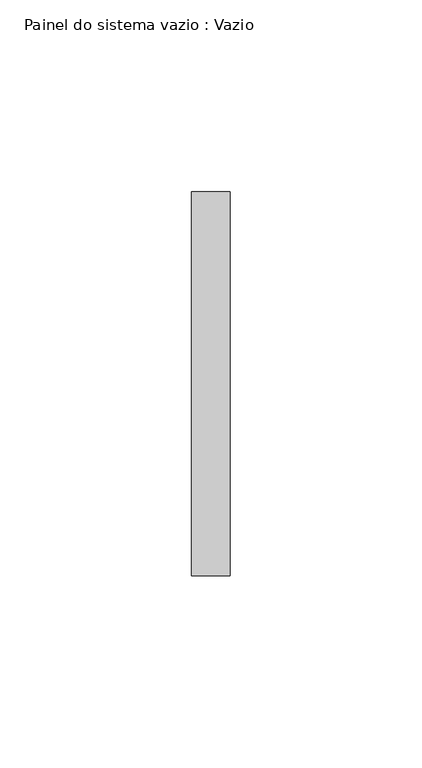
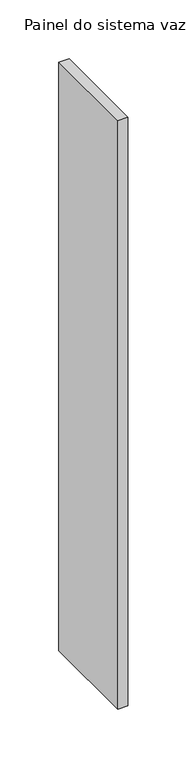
"""IFC4 building model written with IfcOpenShell, lengths in millimetres: plate geometry, Painel do sistema vazio : Vazio."""

from ifc_helpers import new_model, si_unit, origin, origin_with_axes, place, context, project, spatial, polyline, outline, extrude, source, transform, mapped, element, save


def painel_do_sistema_vazio_vazio_ee066a7c(model_context):
    return source(origin(), model_context, "Body", "SweptSolid", [
        extrude(outline(polyline([(4.9999998, -50.0), (-4.9999998, -50.0), (-4.9999998, 50.0), (4.9999998, 50.0), (4.9999998, -50.0)])), origin_with_axes(), (0.0, 0.0, 1.0), 610.0),
    ])


if __name__ == "__main__":
    model = new_model("IFC4")
    model_context = context("Model", 3, world=origin())
    ifc_project = project(units=[si_unit("LENGTHUNIT", "METRE", prefix="MILLI")], contexts=[model_context])
    site = spatial("IfcSite", under=ifc_project)
    building = spatial("IfcBuilding", under=site)
    placement = place(None, origin())
    painel_do_sistema_vazio_vazio_shape = painel_do_sistema_vazio_vazio_ee066a7c(model_context)
    element("IfcPlate", 1, ObjectType="Painel do sistema vazio : Vazio", at=placement, inside=building, context=model_context, shape_type="MappedRepresentation", body=[
        mapped(painel_do_sistema_vazio_vazio_shape, transform((0.0, 0.0, 0.0), x_axis=(1.0, 0.0, 0.0), y_axis=(0.0, 1.0, 0.0), z_axis=(0.0, 0.0, 1.0))),
    ])
    save(model, "model.ifc")
